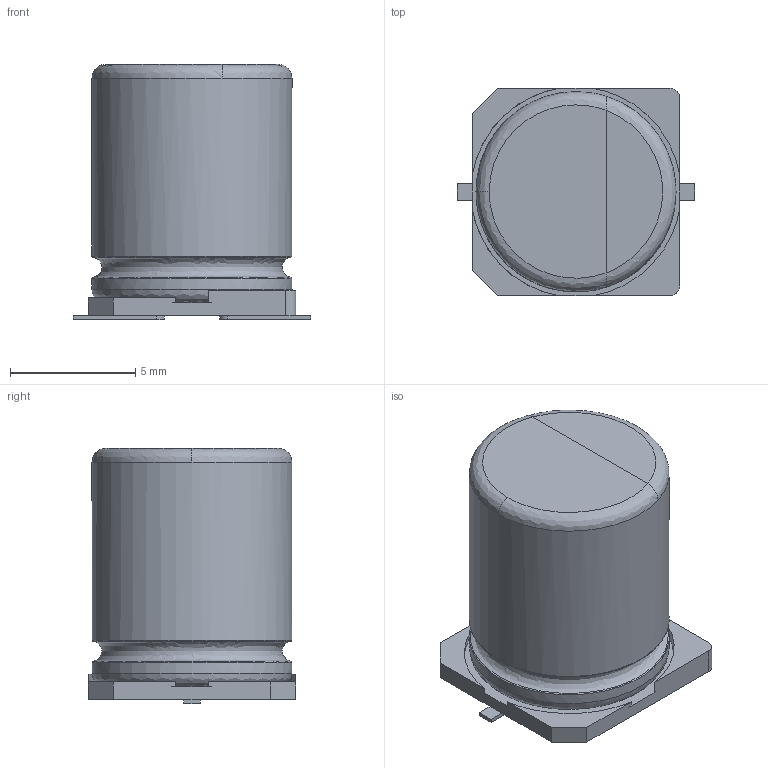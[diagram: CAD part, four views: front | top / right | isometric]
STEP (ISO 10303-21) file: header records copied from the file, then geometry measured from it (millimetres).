
FILE_DESCRIPTION(('Open CASCADE Model'),'2;1');
FILE_NAME('Open CASCADE Shape Model','2026-10-25T11:09:56',('Author'),( 'Open CASCADE'),'Open CASCADE STEP processor 8.0','Open CASCADE 8.0' ,'Unknown');
FILE_SCHEMA(('AUTOMOTIVE_DESIGN { 1 0 10303 214 1 1 1 1 }'));
Length unit declared in the file: millimetre
Products named in the file (1): Open CASCADE STEP translator 8.0 1
Bounding box: 9.5 x 8.3 x 10.2 mm (x, y, z)
Volume: 513.3 mm3; surface area: 435.2 mm2
Topology: 1 solids, 1 shells, 41 faces, 103 edges, 65 vertices
Faces by surface type: bspline 41
Entity records: 3178 total; most frequent: CARTESIAN_POINT 1868, B_SPLINE_CURVE_WITH_KNOTS 255, ORIENTED_EDGE 206, PCURVE 206, DEFINITIONAL_REPRESENTATION 206, EDGE_CURVE 103, SURFACE_CURVE 97, VERTEX_POINT 65
